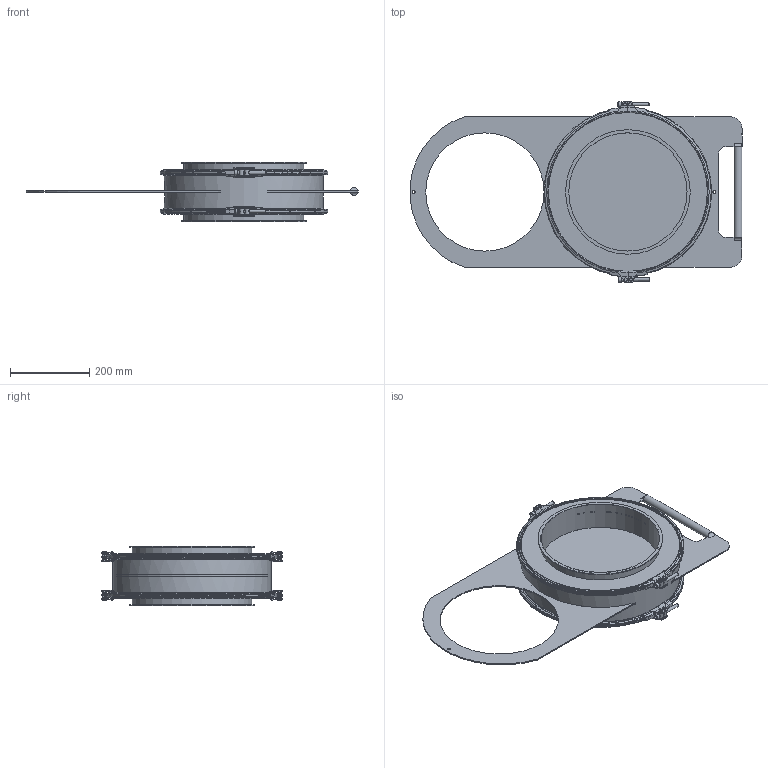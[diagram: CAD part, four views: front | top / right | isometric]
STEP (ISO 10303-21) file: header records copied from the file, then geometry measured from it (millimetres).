
FILE_DESCRIPTION((''),'2;1');
FILE_NAME('U:\Wolfgang\Marcel-3D\fertig\Kapitel 9\3021081.stp','2011-10-11T13:05:17',('iwienholt'),(''),'Autodesk Inventor 2010','Autodesk Inventor 2010','');
FILE_SCHEMA(('AUTOMOTIVE_DESIGN { 1 0 10303 214 1 1 1 1 }'));
Length unit declared in the file: millimetre
Products named in the file (10): 3021081; Rohr DN300; Schieber DN300; 4022055; 4022055-1; Verschluss b=424; Verschlussrolle; VerschlussrolleGewinde; ISO 4762 M8 x 70; 4022055-Dichtmasse
Assembly tree (17 placements, depth 3):
  3021081
    Rohr DN300
    Schieber DN300
    4022055  x2
      4022055-1
      Verschluss b=424
      Verschlussrolle
      VerschlussrolleGewinde
      ISO 4762 M8 x 70
      4022055-Dichtmasse
Bounding box: 839.3 x 458 x 150 mm (x, y, z)
Volume: 2021991.3 mm3; surface area: 1555419.1 mm2
Topology: 28 solids, 28 shells, 870 faces, 2306 edges, 1522 vertices
Faces by surface type: cylinder 269, plane 246, bspline 175, cone 144, torus 36
Full cylindrical faces by diameter (mm): 5 x16, 6 x4, 8 x20, 12 x8, 13 x4, 20 x1, 299 x3, 303 x4, 315 x1, 398 x1, 402 x3, 414 x1, 420 x2
Entity records: 7257 total; most frequent: CARTESIAN_POINT 2387, DIRECTION 978, ORIENTED_EDGE 890, EDGE_CURVE 445, AXIS2_PLACEMENT_3D 392, VERTEX_POINT 317, EDGE_LOOP 274, FACE_OUTER_BOUND 199
